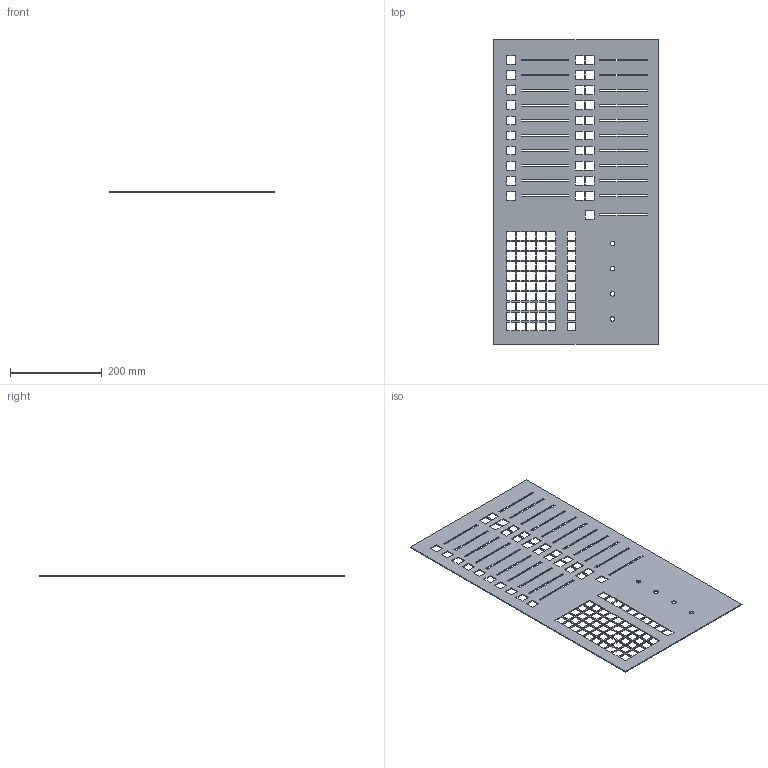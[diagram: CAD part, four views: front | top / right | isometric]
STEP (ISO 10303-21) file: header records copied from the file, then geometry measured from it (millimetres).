
FILE_DESCRIPTION(/* description */ (''),/* implementation_level */ '2;1');
FILE_NAME(/* name */ 'cmdmx-dekplaat.step',/* time_stamp */ '2026-11-13T14:05:41+01:00',/* author */ (''),/* organization */ (''),/* preprocessor_version */ 'ST-DEVELOPER v20.2',/* originating_system */ 'Autodesk Translation Framework v15.17.0.0',/* authorisation */ '');
FILE_SCHEMA (('AUTOMOTIVE_DESIGN { 1 0 10303 214 3 1 1 }'));
Length unit declared in the file: millimetre
Products named in the file (1): 2026-11-13-14-05-41-232
Bounding box: 360 x 666 x 2 mm (x, y, z)
Volume: 395717.7 mm3; surface area: 422977 mm2
Topology: 1 solids, 1 shells, 458 faces, 1368 edges, 912 vertices
Faces by surface type: plane 454, cylinder 4
Full cylindrical faces by diameter (mm): 10 x4
Entity records: 15584 total; most frequent: CARTESIAN_POINT 2739, ORIENTED_EDGE 2736, DIRECTION 2294, EDGE_CURVE 1368, LINE 1360, VECTOR 1360, VERTEX_POINT 912, EDGE_LOOP 690
